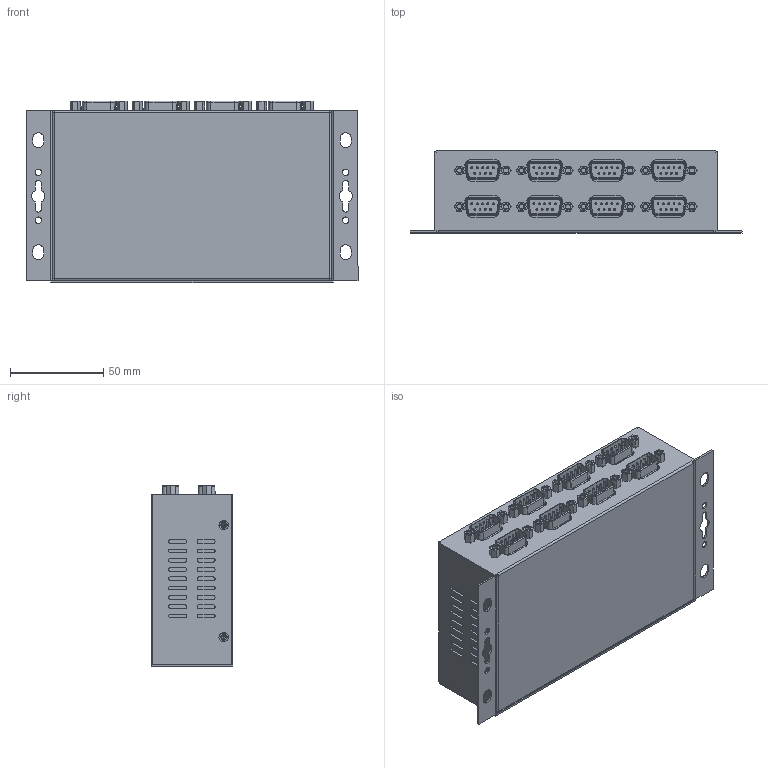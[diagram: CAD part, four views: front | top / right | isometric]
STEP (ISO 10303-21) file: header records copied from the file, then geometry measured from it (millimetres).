
FILE_DESCRIPTION(/* description */ (''),/* implementation_level */ '2;1');
FILE_NAME(/* name */ '/Users/leo/Desktop/Desktop - Leonardo’s MacBook Air/Coolgear May/CM-41082/CM-41082 Model3D LPV1.step',/* time_stamp */ '2021-06-23T12:50:58-04:00',/* author */ (''),/* organization */ (''),/* preprocessor_version */ 'ST-DEVELOPER v18.1',/* originating_system */ 'Autodesk Translation Framework v10.9.0.1377',/* authorisation */ '');
FILE_SCHEMA (('AUTOMOTIVE_DESIGN { 1 0 10303 214 3 1 1 }'));
Products named in the file (1): FusionComponent
Bounding box: 178.4 x 44 x 97.5 mm (x, y, z)
Volume: 115191.2 mm3; surface area: 157591.9 mm2
Topology: 1 solids, 2 shells, 3139 faces, 8563 edges, 5575 vertices
Faces by surface type: plane 2138, cylinder 703, cone 114, torus 82, sphere 77, bspline 25
Full cylindrical faces by diameter (mm): 1 x72, 1.645 x1, 2.117 x1, 2.271 x2, 2.35 x16, 2.6 x16, 2.8 x16, 2.89 x1, 3 x24, 3.2 x6, 3.4 x1, 3.469 x1, 3.5 x4, 4.939 x2, 5.4 x4, 5.88 x1
Entity records: 111116 total; most frequent: CARTESIAN_POINT 31213, ORIENTED_EDGE 16964, DIRECTION 15832, EDGE_CURVE 8482, LINE 6350, VECTOR 6350, VERTEX_POINT 5575, AXIS2_PLACEMENT_3D 4741
